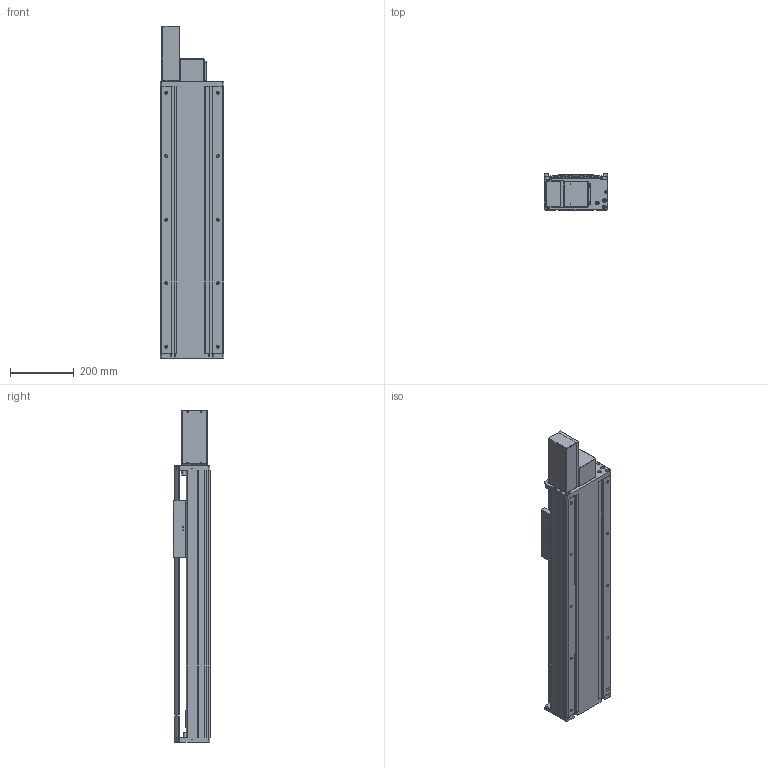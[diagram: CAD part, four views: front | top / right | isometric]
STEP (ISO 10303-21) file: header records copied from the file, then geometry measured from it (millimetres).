
FILE_DESCRIPTION(/* description */ (''),/* implementation_level */ '2;1');
FILE_NAME(/* name */ 'TKB200-FR-600_asm1.stp',/* time_stamp */ '2016-05-18T11:41:01+08:00',/* author */ (''),/* organization */ (''),/* preprocessor_version */ 'ST-DEVELOPER v15',/* originating_system */ 'SIEMENS PLM Software NX 8.5',/* authorisation */ '');
FILE_SCHEMA (('AUTOMOTIVE_DESIGN { 1 0 10303 214 3 1 1 1 }'));
Length unit declared in the file: millimetre
Products named in the file (3): 200-2; 200-1; TKB200-FR-600_asm1
Assembly tree (2 placements, depth 2):
  TKB200-FR-600_asm1
    200-1
    200-2
Bounding box: 200 x 115 x 1045 mm (x, y, z)
Volume: 6342027 mm3; surface area: 1926074.3 mm2
Topology: 2 solids, 3 shells, 1001 faces, 2817 edges, 1811 vertices
Faces by surface type: plane 467, cylinder 448, cone 70, bspline 16
Full cylindrical faces by diameter (mm): 2.5 x2, 3.3 x16, 4.3 x4, 4.5 x8, 5 x2, 6.6 x34, 6.8 x8, 8 x6, 9 x18, 10 x4, 11 x22, 12 x16, 14 x10, 75 x1
Entity records: 33672 total; most frequent: CARTESIAN_POINT 8565, DIRECTION 5169, ORIENTED_EDGE 5014, EDGE_CURVE 2507, AXIS2_PLACEMENT_3D 1870, VERTEX_POINT 1724, LINE 1429, VECTOR 1429
